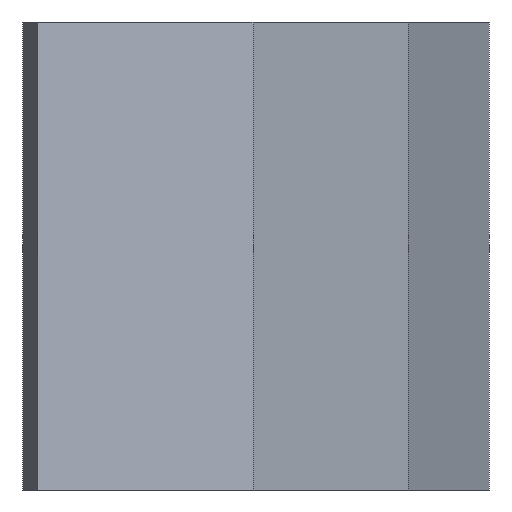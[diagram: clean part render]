
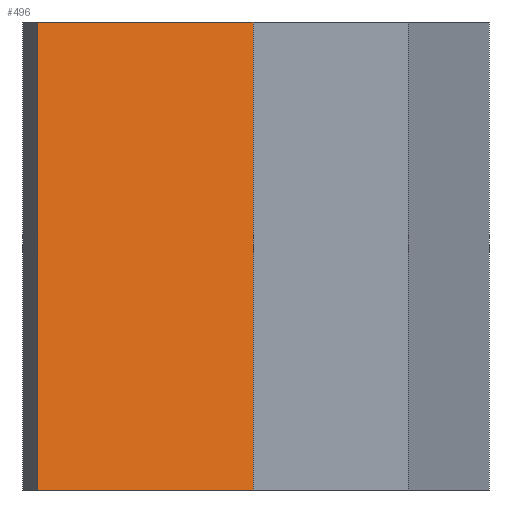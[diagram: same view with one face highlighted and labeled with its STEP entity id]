
A CAD part, left-side view. The second image highlights one B-rep face of the part: STEP entity #496.
In plain terms, the highlighted planar face has unit normal (-0.806, -0.592, 0).
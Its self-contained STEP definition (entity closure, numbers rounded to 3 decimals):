
#44 = PLANE('',#45);
#45 = AXIS2_PLACEMENT_3D('',#46,#47,#48);
#46 = CARTESIAN_POINT('',(61.488,-38.5,-30.));
#47 = DIRECTION('',(0.,0.,1.));
#48 = DIRECTION('',(-1.,0.,0.));
#97 = PLANE('',#98);
#98 = AXIS2_PLACEMENT_3D('',#99,#100,#101);
#99 = CARTESIAN_POINT('',(61.488,-38.5,9.));
#100 = DIRECTION('',(0.,0.,1.));
#101 = DIRECTION('',(-1.,0.,0.));
#391 = PLANE('',#392);
#392 = AXIS2_PLACEMENT_3D('',#393,#394,#395);
#393 = CARTESIAN_POINT('',(-30.806,-69.375,9.));
#394 = DIRECTION('',(0.595,0.804,-0.));
#395 = DIRECTION('',(-0.804,0.595,0.));
#428 = VERTEX_POINT('',#429);
#429 = CARTESIAN_POINT('',(-48.292,-56.445,-30.));
#450 = EDGE_CURVE('',#428,#451,#453,.T.);
#451 = VERTEX_POINT('',#452);
#452 = CARTESIAN_POINT('',(-48.292,-56.445,9.));
#453 = SURFACE_CURVE('',#454,(#457,#463),.PCURVE_S1.);
#454 = B_SPLINE_CURVE_WITH_KNOTS('',1,(#455,#456),.UNSPECIFIED.,.F.,.F.,
  (2,2),(0.,1.),.PIECEWISE_BEZIER_KNOTS.);
#455 = CARTESIAN_POINT('',(-48.292,-56.445,-30.));
#456 = CARTESIAN_POINT('',(-48.292,-56.445,9.));
#457 = PCURVE('',#391,#458);
#458 = DEFINITIONAL_REPRESENTATION('',(#459),#462);
#459 = B_SPLINE_CURVE_WITH_KNOTS('',1,(#460,#461),.UNSPECIFIED.,.F.,.F.,
  (2,2),(0.,1.),.PIECEWISE_BEZIER_KNOTS.);
#460 = CARTESIAN_POINT('',(21.747,-39.));
#461 = CARTESIAN_POINT('',(21.747,0.));
#462 = ( GEOMETRIC_REPRESENTATION_CONTEXT(2) 
PARAMETRIC_REPRESENTATION_CONTEXT() REPRESENTATION_CONTEXT('2D SPACE',''
  ) );
#463 = PCURVE('',#464,#469);
#464 = PLANE('',#465);
#465 = AXIS2_PLACEMENT_3D('',#466,#467,#468);
#466 = CARTESIAN_POINT('',(-48.292,-56.445,9.));
#467 = DIRECTION('',(0.806,0.592,-0.));
#468 = DIRECTION('',(-0.592,0.806,0.));
#469 = DEFINITIONAL_REPRESENTATION('',(#470),#473);
#470 = B_SPLINE_CURVE_WITH_KNOTS('',1,(#471,#472),.UNSPECIFIED.,.F.,.F.,
  (2,2),(0.,1.),.PIECEWISE_BEZIER_KNOTS.);
#471 = CARTESIAN_POINT('',(0.,-39.));
#472 = CARTESIAN_POINT('',(0.,0.));
#473 = ( GEOMETRIC_REPRESENTATION_CONTEXT(2) 
PARAMETRIC_REPRESENTATION_CONTEXT() REPRESENTATION_CONTEXT('2D SPACE',''
  ) );
#496 = ADVANCED_FACE('',(#497),#464,.F.);
#497 = FACE_BOUND('',#498,.F.);
#498 = EDGE_LOOP('',(#499,#522,#547,#568));
#499 = ORIENTED_EDGE('',*,*,#500,.T.);
#500 = EDGE_CURVE('',#428,#501,#503,.T.);
#501 = VERTEX_POINT('',#502);
#502 = CARTESIAN_POINT('',(-61.488,-38.5,-30.));
#503 = SURFACE_CURVE('',#504,(#508,#515),.PCURVE_S1.);
#504 = LINE('',#505,#506);
#505 = CARTESIAN_POINT('',(-48.292,-56.445,-30.));
#506 = VECTOR('',#507,1.);
#507 = DIRECTION('',(-0.592,0.806,0.));
#508 = PCURVE('',#464,#509);
#509 = DEFINITIONAL_REPRESENTATION('',(#510),#514);
#510 = LINE('',#511,#512);
#511 = CARTESIAN_POINT('',(0.,-39.));
#512 = VECTOR('',#513,1.);
#513 = DIRECTION('',(1.,0.));
#514 = ( GEOMETRIC_REPRESENTATION_CONTEXT(2) 
PARAMETRIC_REPRESENTATION_CONTEXT() REPRESENTATION_CONTEXT('2D SPACE',''
  ) );
#515 = PCURVE('',#44,#516);
#516 = DEFINITIONAL_REPRESENTATION('',(#517),#521);
#517 = LINE('',#518,#519);
#518 = CARTESIAN_POINT('',(109.78,17.945));
#519 = VECTOR('',#520,1.);
#520 = DIRECTION('',(0.592,-0.806));
#521 = ( GEOMETRIC_REPRESENTATION_CONTEXT(2) 
PARAMETRIC_REPRESENTATION_CONTEXT() REPRESENTATION_CONTEXT('2D SPACE',''
  ) );
#522 = ORIENTED_EDGE('',*,*,#523,.T.);
#523 = EDGE_CURVE('',#501,#524,#526,.T.);
#524 = VERTEX_POINT('',#525);
#525 = CARTESIAN_POINT('',(-61.488,-38.5,9.));
#526 = SURFACE_CURVE('',#527,(#530,#536),.PCURVE_S1.);
#527 = B_SPLINE_CURVE_WITH_KNOTS('',1,(#528,#529),.UNSPECIFIED.,.F.,.F.,
  (2,2),(0.,1.),.PIECEWISE_BEZIER_KNOTS.);
#528 = CARTESIAN_POINT('',(-61.488,-38.5,-30.));
#529 = CARTESIAN_POINT('',(-61.488,-38.5,9.));
#530 = PCURVE('',#464,#531);
#531 = DEFINITIONAL_REPRESENTATION('',(#532),#535);
#532 = B_SPLINE_CURVE_WITH_KNOTS('',1,(#533,#534),.UNSPECIFIED.,.F.,.F.,
  (2,2),(0.,1.),.PIECEWISE_BEZIER_KNOTS.);
#533 = CARTESIAN_POINT('',(22.274,-39.));
#534 = CARTESIAN_POINT('',(22.274,0.));
#535 = ( GEOMETRIC_REPRESENTATION_CONTEXT(2) 
PARAMETRIC_REPRESENTATION_CONTEXT() REPRESENTATION_CONTEXT('2D SPACE',''
  ) );
#536 = PCURVE('',#537,#542);
#537 = PLANE('',#538);
#538 = AXIS2_PLACEMENT_3D('',#539,#540,#541);
#539 = CARTESIAN_POINT('',(-61.488,-38.5,9.));
#540 = DIRECTION('',(0.5,-0.866,0.));
#541 = DIRECTION('',(0.866,0.5,0.));
#542 = DEFINITIONAL_REPRESENTATION('',(#543),#546);
#543 = B_SPLINE_CURVE_WITH_KNOTS('',1,(#544,#545),.UNSPECIFIED.,.F.,.F.,
  (2,2),(0.,1.),.PIECEWISE_BEZIER_KNOTS.);
#544 = CARTESIAN_POINT('',(0.,-39.));
#545 = CARTESIAN_POINT('',(0.,0.));
#546 = ( GEOMETRIC_REPRESENTATION_CONTEXT(2) 
PARAMETRIC_REPRESENTATION_CONTEXT() REPRESENTATION_CONTEXT('2D SPACE',''
  ) );
#547 = ORIENTED_EDGE('',*,*,#548,.F.);
#548 = EDGE_CURVE('',#451,#524,#549,.T.);
#549 = SURFACE_CURVE('',#550,(#554,#561),.PCURVE_S1.);
#550 = LINE('',#551,#552);
#551 = CARTESIAN_POINT('',(-48.292,-56.445,9.));
#552 = VECTOR('',#553,1.);
#553 = DIRECTION('',(-0.592,0.806,0.));
#554 = PCURVE('',#464,#555);
#555 = DEFINITIONAL_REPRESENTATION('',(#556),#560);
#556 = LINE('',#557,#558);
#557 = CARTESIAN_POINT('',(0.,0.));
#558 = VECTOR('',#559,1.);
#559 = DIRECTION('',(1.,0.));
#560 = ( GEOMETRIC_REPRESENTATION_CONTEXT(2) 
PARAMETRIC_REPRESENTATION_CONTEXT() REPRESENTATION_CONTEXT('2D SPACE',''
  ) );
#561 = PCURVE('',#97,#562);
#562 = DEFINITIONAL_REPRESENTATION('',(#563),#567);
#563 = LINE('',#564,#565);
#564 = CARTESIAN_POINT('',(109.78,17.945));
#565 = VECTOR('',#566,1.);
#566 = DIRECTION('',(0.592,-0.806));
#567 = ( GEOMETRIC_REPRESENTATION_CONTEXT(2) 
PARAMETRIC_REPRESENTATION_CONTEXT() REPRESENTATION_CONTEXT('2D SPACE',''
  ) );
#568 = ORIENTED_EDGE('',*,*,#450,.F.);
